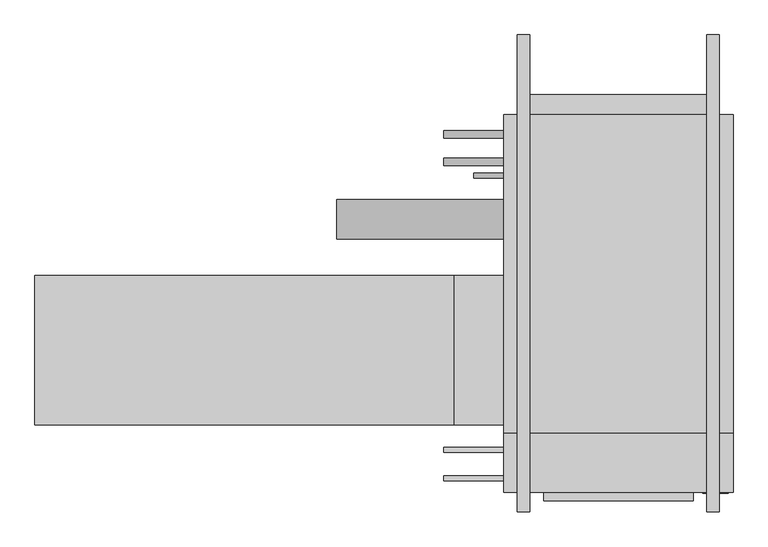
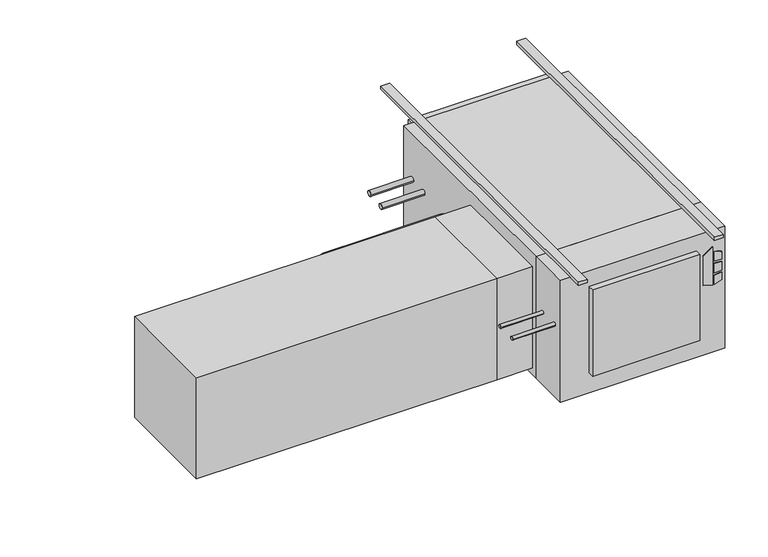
"""IFC4 building model written with IfcOpenShell, lengths in millimetres: proxy geometry."""

import ifcopenshell
import ifcopenshell.guid

model = None  # the IFC model being written
_history = None  # IfcOwnerHistory: only IFC2X3 demands one
_inside = {}  # id of a spatial element -> (the spatial element, [elements in it])
_under = {}  # id of a project, library or spatial element -> (it, [spatial elements below it])
_declared = {}  # id of a project -> (the project, [libraries it declares])
_typed = {}  # id of a type object -> (the type object, [elements of that type])
_made_of = {}  # id of a material, layer set ... -> (it, [elements and type objects made of it])


def new_model(schema):
    """Start an empty IFC model of exactly this schema.

    Asked for "IFC4X3", IfcOpenShell would pick the latest addendum, in which some entities
    have other attributes; the version numbers below select the first issue.
    IFC2X3 requires an IfcOwnerHistory on every rooted entity: one is made here for all.
    """
    global model, _history
    if schema == "IFC4X3":
        model = ifcopenshell.file(schema_version=(4, 3, 0, 0))
    else:
        model = ifcopenshell.file(schema=schema)
    _inside.clear()
    _under.clear()
    _declared.clear()
    _typed.clear()
    _made_of.clear()
    _history = None
    if model.schema == "IFC2X3":
        org = make("IfcOrganization", Name="unknown")
        user = make(
            "IfcPersonAndOrganization",
            ThePerson=make("IfcPerson", FamilyName="unknown"),
            TheOrganization=org,
        )
        app = make(
            "IfcApplication",
            ApplicationDeveloper=org,
            Version="unknown",
            ApplicationFullName="unknown",
            ApplicationIdentifier="unknown",
        )
        _history = make(
            "IfcOwnerHistory",
            OwningUser=user,
            OwningApplication=app,
            ChangeAction="ADDED",
            CreationDate=0,
        )
    return model


def make(cls, **values):
    """One entity of the class cls with the attributes given. An attribute that is None is left unset."""
    return model.create_entity(
        cls, **{name: value for name, value in values.items() if value is not None}
    )


def rooted(cls, **values):
    """An entity with a GlobalId (a new one), such as an element, a storey or a relation."""
    return make(cls, GlobalId=ifcopenshell.guid.new(), OwnerHistory=_history, **values)


def si_unit(unit_type, name, prefix=None):
    """IfcSIUnit, for example si_unit("LENGTHUNIT", "METRE", prefix="MILLI")."""
    return make("IfcSIUnit", UnitType=unit_type, Prefix=prefix, Name=name)


def assignment(units):
    """IfcUnitAssignment: the units of a project."""
    return None if units is None else make("IfcUnitAssignment", Units=units)


def point(xyz):
    """IfcCartesianPoint."""
    return None if xyz is None else make("IfcCartesianPoint", Coordinates=xyz)


def direction(xyz):
    """IfcDirection."""
    return None if xyz is None else make("IfcDirection", DirectionRatios=xyz)


def frame(location, z_axis=None, x_axis=None):
    """IfcAxis2Placement3D, a coordinate frame: its origin and axes. An axis left out is left unset."""
    return make(
        "IfcAxis2Placement3D",
        Location=point(location),
        Axis=direction(z_axis),
        RefDirection=direction(x_axis),
    )


def frame_2d(location, x_axis=None):
    """IfcAxis2Placement2D, a coordinate frame in the plane: its origin and x axis."""
    return make(
        "IfcAxis2Placement2D", Location=point(location), RefDirection=direction(x_axis)
    )


def origin():
    """The frame at (0, 0, 0) with its axes left unset."""
    return frame((0.0, 0.0, 0.0))


def origin_with_axes():
    """The frame at (0, 0, 0) with the z axis (0, 0, 1) and the x axis (1, 0, 0) written out."""
    return frame((0.0, 0.0, 0.0), z_axis=(0.0, 0.0, 1.0), x_axis=(1.0, 0.0, 0.0))


def place(relative_to, where):
    """IfcLocalPlacement: puts the frame where relative to a parent placement (None: the world)."""
    return make(
        "IfcLocalPlacement", PlacementRelTo=relative_to, RelativePlacement=where
    )


def context(
    kind, dimensions, precision=None, world=None, true_north=None, identifier=None
):
    """IfcGeometricRepresentationContext, for example the 3D "Model" context."""
    return make(
        "IfcGeometricRepresentationContext",
        ContextIdentifier=identifier,
        ContextType=kind,
        CoordinateSpaceDimension=dimensions,
        Precision=precision,
        WorldCoordinateSystem=world,
        TrueNorth=true_north,
    )


def project(units=None, contexts=None):
    """IfcProject with its units and contexts."""
    return rooted(
        "IfcProject",
        Name="project",
        RepresentationContexts=contexts,
        UnitsInContext=assignment(units),
    )


def spatial(cls, under=None, at=None, **own):
    """A site, building, storey or space (cls), placed at a placement, below another one or the project."""
    s = rooted(cls, ObjectPlacement=at, **own)
    if under is not None:
        _under.setdefault(under.id(), (under, []))[1].append(s)
    return s


def polyline(points):
    """IfcPolyline through the points."""
    return make("IfcPolyline", Points=[point(p) for p in points])


def circle_curve(where, radius):
    """IfcCircle in the frame where."""
    return make("IfcCircle", Position=where, Radius=radius)


def trimmed(basis, trim1, trim2, sense, master):
    """IfcTrimmedCurve: the piece of a basis curve between two trims."""
    return make(
        "IfcTrimmedCurve",
        BasisCurve=basis,
        Trim1=trim1,
        Trim2=trim2,
        SenseAgreement=sense,
        MasterRepresentation=master,
    )


def segment(curve, same_sense, transition):
    """IfcCompositeCurveSegment."""
    return make(
        "IfcCompositeCurveSegment",
        Transition=transition,
        SameSense=same_sense,
        ParentCurve=curve,
    )


def composite_curve(segments, self_intersect=None):
    """IfcCompositeCurve: segments joined end to end."""
    return make("IfcCompositeCurve", Segments=segments, SelfIntersect=self_intersect)


def outline(outer, holes=None, kind="AREA"):
    """IfcArbitraryClosedProfileDef: a profile drawn as a closed curve; with holes, ...WithVoids."""
    if holes is None:
        return make("IfcArbitraryClosedProfileDef", ProfileType=kind, OuterCurve=outer)
    return make(
        "IfcArbitraryProfileDefWithVoids",
        ProfileType=kind,
        OuterCurve=outer,
        InnerCurves=holes,
    )


def extrude(swept, where, along, depth):
    """IfcExtrudedAreaSolid: the profile swept, set in the frame where, extruded along a direction by depth."""
    return make(
        "IfcExtrudedAreaSolid",
        SweptArea=swept,
        Position=where,
        ExtrudedDirection=direction(along),
        Depth=depth,
    )


def shape(context_of_items, identifier, shape_type, items):
    """IfcShapeRepresentation: the items that make up one representation, for example the "Body"."""
    return make(
        "IfcShapeRepresentation",
        ContextOfItems=context_of_items,
        RepresentationIdentifier=identifier,
        RepresentationType=shape_type,
        Items=items,
    )


def source(mapping_origin, context_of_items, identifier, shape_type, items):
    """IfcRepresentationMap: a shape defined once, which mapped items show again and again."""
    return make(
        "IfcRepresentationMap",
        MappingOrigin=mapping_origin,
        MappedRepresentation=shape(context_of_items, identifier, shape_type, items),
    )


def transform(
    local_origin,
    x_axis=None,
    y_axis=None,
    z_axis=None,
    scale=None,
    scale2=None,
    scale3=None,
    uniform=True,
):
    """IfcCartesianTransformationOperator3D, or its non-uniform kind. x_axis, y_axis, z_axis: its Axis1, 2, 3."""
    if uniform:
        return make(
            "IfcCartesianTransformationOperator3D",
            Axis1=direction(x_axis),
            Axis2=direction(y_axis),
            LocalOrigin=point(local_origin),
            Scale=scale,
            Axis3=direction(z_axis),
        )
    return make(
        "IfcCartesianTransformationOperator3DnonUniform",
        Axis1=direction(x_axis),
        Axis2=direction(y_axis),
        LocalOrigin=point(local_origin),
        Scale=scale,
        Axis3=direction(z_axis),
        Scale2=scale2,
        Scale3=scale3,
    )


def mapped(mapping_source, mapping_target):
    """IfcMappedItem: shows the shape of a source again, moved by a transform."""
    return make(
        "IfcMappedItem", MappingSource=mapping_source, MappingTarget=mapping_target
    )


def made_of(thing, what):
    """Note that an element or type object is made of a material, layer set ...; save() writes the relation."""
    if what is not None:
        _made_of.setdefault(what.id(), (what, []))[1].append(thing)
    return thing


def element(
    cls,
    number,
    at=None,
    inside=None,
    cuts=None,
    type_object=None,
    material=None,
    context=None,
    identifier="Body",
    shape_type=None,
    held_by="IfcProductDefinitionShape",
    body=None,
    shapes=None,
    **own,
):
    """One element of the class cls, such as IfcWall. Its Tag is "e" and its number.

    at: its placement. inside: the storey or other place that contains it. cuts: it is an
    opening in that element (IfcRelVoidsElement). A single representation is given by context,
    identifier, shape_type and body (its items); several are given by shapes. held_by: the class
    of the entity that holds the representations. save() writes the other relations.
    """
    e = rooted(cls, Tag="e%d" % number, ObjectPlacement=at, **own)
    if body is not None:
        shapes = [shape(context, identifier, shape_type, body)]
    if shapes is not None:
        e.Representation = make(held_by, Representations=shapes)
    if inside is not None:
        _inside.setdefault(inside.id(), (inside, []))[1].append(e)
    if cuts is not None:
        rooted(
            "IfcRelVoidsElement", RelatingBuildingElement=cuts, RelatedOpeningElement=e
        )
    if type_object is not None:
        _typed.setdefault(type_object.id(), (type_object, []))[1].append(e)
    return made_of(e, material)


def aggregate(whole, parts):
    """IfcRelAggregates: a whole, such as a stair, and the parts it consists of."""
    return rooted("IfcRelAggregates", RelatingObject=whole, RelatedObjects=parts)


def save(model, path):
    """Write the relations noted so far, then the file.

    IfcRelAggregates (storeys below a building ...), IfcRelContainedInSpatialStructure (elements
    in a storey), IfcRelDefinesByType, IfcRelAssociatesMaterial and IfcRelDeclares: one each for
    every whole, place, type object, material and project.
    """
    for whole, parts in _under.values():
        aggregate(whole, parts)
    for where, things in _inside.values():
        rooted(
            "IfcRelContainedInSpatialStructure",
            RelatedElements=things,
            RelatingStructure=where,
        )
    for kind, things in _typed.values():
        rooted("IfcRelDefinesByType", RelatedObjects=things, RelatingType=kind)
    for what, things in _made_of.values():
        rooted("IfcRelAssociatesMaterial", RelatedObjects=things, RelatingMaterial=what)
    for by, libraries in _declared.values():
        rooted("IfcRelDeclares", RelatingContext=by, RelatedDefinitions=libraries)
    model.write(path)


def mechanical_equipment_526e6bc5(model_context):
    return source(origin(), model_context, "Body", "SweptSolid", [
        extrude(outline(polyline([(-193.2519297, 366.7868862), (-203.2, 398.9602728), (-61.0290756, 398.9602728), (-84.0510817, 366.7868862), (-193.2519297, 366.7868862)])), frame((0.0, -797.052, 0.0), z_axis=(0.0, 1.0, 0.0), x_axis=(0.0, 0.0, 1.0)), (0.0, 0.0, 1.0), 3.175),
        extrude(outline(polyline([(-114.2526443, 405.7186058), (-117.4550368, 431.8), (-88.2261958, 431.8), (-80.1617807, 405.7186058), (-114.2526443, 405.7186058)])), frame((0.0, -797.052, 0.0), z_axis=(0.0, 1.0, 0.0), x_axis=(0.0, 0.0, 1.0)), (0.0, 0.0, 1.0), 3.175),
        extrude(outline(polyline([(-166.1161712, 431.8), (-169.7816721, 405.7186058), (-203.2, 405.7186058), (-194.5657628, 431.8), (-166.1161712, 431.8)])), frame((0.0, -797.052, 0.0), z_axis=(0.0, 1.0, 0.0), x_axis=(0.0, 0.0, 1.0)), (0.0, 0.0, 1.0), 3.175),
        extrude(outline(polyline([(-126.8010097, 431.8), (-124.5191834, 405.7186058), (-160.4567319, 405.7186058), (-157.7154669, 431.8), (-126.8010097, 431.8)])), frame((0.0, -797.052, 0.0), z_axis=(0.0, 1.0, 0.0), x_axis=(0.0, 0.0, 1.0)), (0.0, 0.0, 1.0), 3.175),
        extrude(outline(polyline([(444.5, -793.877), (-139.7, -793.877), (-139.7, -644.525), (444.5, -644.525), (444.5, -793.877)])), frame((0.0, 0.0, -457.2), z_axis=(0.0, 0.0, 1.0), x_axis=(1.0, 0.0, 0.0)), (0.0, 0.0, 1.0), 457.2),
        extrude(outline(polyline([(342.9, -816.229), (-38.1, -816.229), (-38.1, -793.877), (342.9, -793.877), (342.9, -816.229)])), frame((0.0, 0.0, -381.0), z_axis=(0.0, 0.0, 1.0), x_axis=(1.0, 0.0, 0.0)), (0.0, 0.0, 1.0), 323.85),
        extrude(outline(polyline([(-1333.5, -622.3), (-1333.5, -241.3), (-266.7, -241.3), (-266.7, -622.3), (-1333.5, -622.3)])), frame((0.0, 0.0, -431.8), z_axis=(0.0, 0.0, 1.0), x_axis=(1.0, 0.0, 0.0)), (0.0, 0.0, 1.0), 381.0),
        extrude(outline(polyline([(-139.7, -241.3), (-139.7, -622.3), (-266.7, -622.3), (-266.7, -241.3), (-139.7, -241.3)])), frame((0.0, 0.0, -431.8), z_axis=(0.0, 0.0, 1.0), x_axis=(1.0, 0.0, 0.0)), (0.0, 0.0, 1.0), 381.0),
        extrude(outline(composite_curve([segment(trimmed(circle_curve(frame_2d((-758.825, -184.15)), 6.35), [point((-765.175, -184.15))], [point((-752.475, -184.15))], False, "CARTESIAN"), True, "CONTINUOUS"), segment(trimmed(circle_curve(frame_2d((-758.825, -184.15)), 6.35), [point((-752.475, -184.15))], [point((-765.175, -184.15))], False, "CARTESIAN"), True, "CONTINUOUS")], self_intersect=False)), frame((-292.1, 0.0, 0.0), z_axis=(1.0, 0.0, 0.0), x_axis=(0.0, 1.0, 0.0)), (0.0, 0.0, 1.0), 152.4),
        extrude(outline(composite_curve([segment(trimmed(circle_curve(frame_2d((-685.8, -184.15)), 6.35), [point((-692.15, -184.15))], [point((-679.45, -184.15))], False, "CARTESIAN"), True, "CONTINUOUS"), segment(trimmed(circle_curve(frame_2d((-685.8, -184.15)), 6.35), [point((-679.45, -184.15))], [point((-692.15, -184.15))], False, "CARTESIAN"), True, "CONTINUOUS")], self_intersect=False)), frame((-292.1, 0.0, 0.0), z_axis=(1.0, 0.0, 0.0), x_axis=(0.0, 1.0, 0.0)), (0.0, 0.0, 1.0), 152.4),
        extrude(outline(composite_curve([segment(trimmed(circle_curve(frame_2d((-98.4896516, -228.6360165)), 50.8), [point((-149.2896516, -228.6360165))], [point((-47.6896516, -228.6360165))], False, "CARTESIAN"), True, "CONTINUOUS"), segment(trimmed(circle_curve(frame_2d((-98.4896516, -228.6360165)), 50.8), [point((-47.6896516, -228.6360165))], [point((-149.2896516, -228.6360165))], False, "CARTESIAN"), True, "CONTINUOUS")], self_intersect=False)), frame((-565.15, 0.0, 0.0), z_axis=(1.0, 0.0, 0.0), x_axis=(0.0, 1.0, 0.0)), (0.0, 0.0, 1.0), 425.45),
        extrude(outline(composite_curve([segment(trimmed(circle_curve(frame_2d((47.625, -177.8)), 9.525), [point((38.1, -177.8))], [point((57.15, -177.8))], False, "CARTESIAN"), True, "CONTINUOUS"), segment(trimmed(circle_curve(frame_2d((47.625, -177.8)), 9.525), [point((57.15, -177.8))], [point((38.1, -177.8))], False, "CARTESIAN"), True, "CONTINUOUS")], self_intersect=False)), frame((-292.1, 0.0, 0.0), z_axis=(1.0, 0.0, 0.0), x_axis=(0.0, 1.0, 0.0)), (0.0, 0.0, 1.0), 152.4),
        extrude(outline(composite_curve([segment(trimmed(circle_curve(frame_2d((117.475, -171.45)), 9.525), [point((107.95, -171.45))], [point((127.0, -171.45))], False, "CARTESIAN"), True, "CONTINUOUS"), segment(trimmed(circle_curve(frame_2d((117.475, -171.45)), 9.525), [point((127.0, -171.45))], [point((107.95, -171.45))], False, "CARTESIAN"), True, "CONTINUOUS")], self_intersect=False)), frame((-292.1, 0.0, 0.0), z_axis=(1.0, 0.0, 0.0), x_axis=(0.0, 1.0, 0.0)), (0.0, 0.0, 1.0), 152.4),
        extrude(outline(composite_curve([segment(trimmed(circle_curve(frame_2d((12.7, -409.575)), 6.35), [point((6.35, -409.575))], [point((19.05, -409.575))], False, "CARTESIAN"), True, "CONTINUOUS"), segment(trimmed(circle_curve(frame_2d((12.7, -409.575)), 6.35), [point((19.05, -409.575))], [point((6.35, -409.575))], False, "CARTESIAN"), True, "CONTINUOUS")], self_intersect=False)), frame((-215.9, 0.0, 0.0), z_axis=(1.0, 0.0, 0.0), x_axis=(0.0, 1.0, 0.0)), (0.0, 0.0, 1.0), 76.2),
        extrude(outline(polyline([(444.5, 168.275), (444.5, -644.525), (-139.7, -644.525), (-139.7, 168.275), (444.5, 168.275)])), frame((0.0, 0.0, -457.2), z_axis=(0.0, 0.0, 1.0), x_axis=(1.0, 0.0, 0.0)), (0.0, 0.0, 1.0), 457.2),
        extrude(outline(polyline([(-95.25, 219.075), (400.05, 219.075), (400.05, 168.275), (-95.25, 168.275), (-95.25, 219.075)])), frame((0.0, 0.0, -381.0), z_axis=(0.0, 0.0, 1.0), x_axis=(1.0, 0.0, 0.0)), (0.0, 0.0, 1.0), 355.6),
        extrude(outline(polyline([(-73.025, 371.475), (-73.025, -844.677), (-104.775, -844.677), (-104.775, 371.475), (-73.025, 371.475)])), origin_with_axes(), (0.0, 0.0, 1.0), 12.7),
        extrude(outline(polyline([(409.575, 371.475), (409.575, -844.677), (377.825, -844.677), (377.825, 371.475), (409.575, 371.475)])), origin_with_axes(), (0.0, 0.0, 1.0), 12.7),
    ])


if __name__ == "__main__":
    model = new_model("IFC4")
    model_context = context("Model", 3, world=origin())
    ifc_project = project(units=[si_unit("LENGTHUNIT", "METRE", prefix="MILLI")], contexts=[model_context])
    site = spatial("IfcSite", under=ifc_project)
    building = spatial("IfcBuilding", under=site)
    placement = place(None, origin())
    mechanical_equipment_shape = mechanical_equipment_526e6bc5(model_context)
    element("IfcBuildingElementProxy", 1, Name="High_Capacity_Horizontal_Cabinet_Fan_Coil_Unit_-_HTY_-_IEC_-_4-Pipe_LH Side_2022 : Size 06 - 115v/60Hz/1Ph - 4/1 Coil - 4\" AirIn", ObjectType="High_Capacity_Horizontal_Cabinet_Fan_Coil_Unit_-_HTY_-_IEC_-_4-Pipe_LH Side_2022 : Size 06 - 115v/60Hz/1Ph - 4/1 Coil - 4\" AirIn", at=placement, inside=building, context=model_context, shape_type="MappedRepresentation", body=[
        mapped(mechanical_equipment_shape, transform((0.0, 0.0, 0.0), x_axis=(1.0, 0.0, 0.0), y_axis=(0.0, 1.0, 0.0), z_axis=(0.0, 0.0, 1.0))),
    ])
    save(model, "model.ifc")
